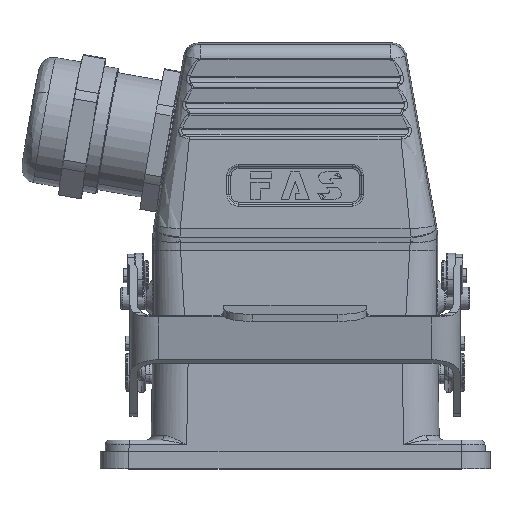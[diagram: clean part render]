
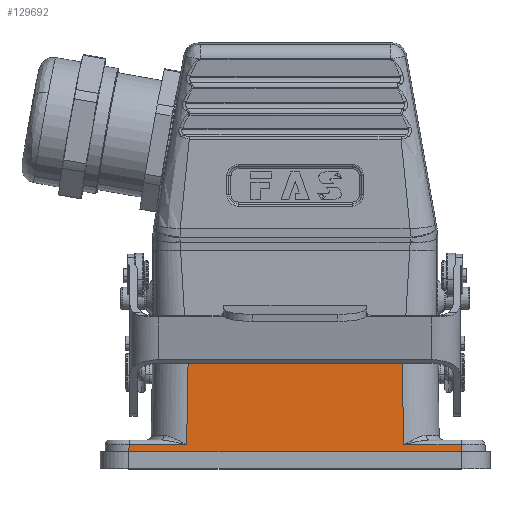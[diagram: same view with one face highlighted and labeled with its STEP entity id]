
A CAD part, top view. The second image highlights one B-rep face of the part: STEP entity #129692.
In plain terms, the highlighted planar face has unit normal (0, 0.018, 1).
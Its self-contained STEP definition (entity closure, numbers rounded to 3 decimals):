
#315 = VECTOR ( 'NONE', #131808, 1000. ) ;
#2994 = EDGE_CURVE ( 'NONE', #54490, #91649, #11237, .T. ) ;
#3604 = LINE ( 'NONE', #110635, #315 ) ;
#4074 = LINE ( 'NONE', #40720, #75930 ) ;
#6279 = CARTESIAN_POINT ( 'NONE',  ( -42.121, 22., 21.5 ) ) ;
#9014 = CARTESIAN_POINT ( 'NONE',  ( 22.501, 22., 21.5 ) ) ;
#10588 = AXIS2_PLACEMENT_3D ( 'NONE', #6279, #138322, #114103 ) ;
#11237 = LINE ( 'NONE', #59694, #104701 ) ;
#13156 = VECTOR ( 'NONE', #86381, 1000. ) ;
#14928 = DIRECTION ( 'NONE',  ( 0.017, -1., 0.017 ) ) ;
#15418 = VERTEX_POINT ( 'NONE', #87835 ) ;
#15659 = LINE ( 'NONE', #64101, #59669 ) ;
#32235 = DIRECTION ( 'NONE',  ( -1., 0., 0. ) ) ;
#36651 = CARTESIAN_POINT ( 'NONE',  ( -22.501, 22., 21.5 ) ) ;
#37942 = ORIENTED_EDGE ( 'NONE', *, *, #58379, .F. ) ;
#40720 = CARTESIAN_POINT ( 'NONE',  ( 0., 0., 21.884 ) ) ;
#42092 = VECTOR ( 'NONE', #45681, 1000. ) ;
#43690 = PLANE ( 'NONE',  #10588 ) ;
#44139 = CARTESIAN_POINT ( 'NONE',  ( 35.001, 0., 21.884 ) ) ;
#44843 = CARTESIAN_POINT ( 'NONE',  ( 35.001, 0., 21.884 ) ) ;
#45681 = DIRECTION ( 'NONE',  ( -0.017, 1., -0.017 ) ) ;
#47393 = EDGE_CURVE ( 'NONE', #65324, #15418, #15659, .T. ) ;
#50514 = ORIENTED_EDGE ( 'NONE', *, *, #2994, .T. ) ;
#50631 = EDGE_CURVE ( 'NONE', #91649, #94289, #3604, .T. ) ;
#51704 = DIRECTION ( 'NONE',  ( 1., 0., 0. ) ) ;
#54490 = VERTEX_POINT ( 'NONE', #60016 ) ;
#58379 = EDGE_CURVE ( 'NONE', #104593, #65324, #75424, .T. ) ;
#58905 = DIRECTION ( 'NONE',  ( -1., 0., 0. ) ) ;
#59669 = VECTOR ( 'NONE', #14928, 1000. ) ;
#59694 = CARTESIAN_POINT ( 'NONE',  ( -42.121, 3.017, 21.831 ) ) ;
#60016 = CARTESIAN_POINT ( 'NONE',  ( -22.832, 3.017, 21.831 ) ) ;
#61384 = EDGE_CURVE ( 'NONE', #94289, #87317, #4074, .T. ) ;
#62904 = CARTESIAN_POINT ( 'NONE',  ( 0., 22., 21.5 ) ) ;
#64101 = CARTESIAN_POINT ( 'NONE',  ( 22.497, 22.238, 21.496 ) ) ;
#65324 = VERTEX_POINT ( 'NONE', #9014 ) ;
#65771 = DIRECTION ( 'NONE',  ( -0.017, -1., 0.017 ) ) ;
#66448 = EDGE_CURVE ( 'NONE', #87317, #90926, #107495, .T. ) ;
#68848 = LINE ( 'NONE', #36651, #92780 ) ;
#70852 = EDGE_CURVE ( 'NONE', #104593, #54490, #68848, .T. ) ;
#75424 = LINE ( 'NONE', #62904, #13156 ) ;
#75930 = VECTOR ( 'NONE', #51704, 1000. ) ;
#80396 = CARTESIAN_POINT ( 'NONE',  ( -35.001, 0., 21.884 ) ) ;
#86381 = DIRECTION ( 'NONE',  ( 1., 0., 0. ) ) ;
#87317 = VERTEX_POINT ( 'NONE', #44843 ) ;
#87835 = CARTESIAN_POINT ( 'NONE',  ( 22.832, 3.017, 21.831 ) ) ;
#90664 = FACE_OUTER_BOUND ( 'NONE', #93673, .T. ) ;
#90926 = VERTEX_POINT ( 'NONE', #141440 ) ;
#91649 = VERTEX_POINT ( 'NONE', #141855 ) ;
#92780 = VECTOR ( 'NONE', #65771, 1000. ) ;
#93673 = EDGE_LOOP ( 'NONE', ( #101575, #148028, #150340, #37942, #142738, #50514, #96612, #127599 ) ) ;
#94289 = VERTEX_POINT ( 'NONE', #80396 ) ;
#95653 = CARTESIAN_POINT ( 'NONE',  ( -22.501, 22., 21.5 ) ) ;
#96612 = ORIENTED_EDGE ( 'NONE', *, *, #50631, .T. ) ;
#101575 = ORIENTED_EDGE ( 'NONE', *, *, #66448, .T. ) ;
#104593 = VERTEX_POINT ( 'NONE', #95653 ) ;
#104701 = VECTOR ( 'NONE', #58905, 1000. ) ;
#106481 = LINE ( 'NONE', #139357, #150653 ) ;
#107495 = LINE ( 'NONE', #44139, #42092 ) ;
#110635 = CARTESIAN_POINT ( 'NONE',  ( -34.948, 3.017, 21.831 ) ) ;
#114103 = DIRECTION ( 'NONE',  ( 1., 0., 0. ) ) ;
#127599 = ORIENTED_EDGE ( 'NONE', *, *, #61384, .T. ) ;
#129692 = ADVANCED_FACE ( 'NONE', ( #90664 ), #43690, .T. ) ;
#130698 = EDGE_CURVE ( 'NONE', #90926, #15418, #106481, .T. ) ;
#131808 = DIRECTION ( 'NONE',  ( -0.017, -1., 0.017 ) ) ;
#138322 = DIRECTION ( 'NONE',  ( 0., 0.017, 1. ) ) ;
#139357 = CARTESIAN_POINT ( 'NONE',  ( -42.121, 3.017, 21.831 ) ) ;
#141440 = CARTESIAN_POINT ( 'NONE',  ( 34.948, 3.017, 21.831 ) ) ;
#141855 = CARTESIAN_POINT ( 'NONE',  ( -34.948, 3.017, 21.831 ) ) ;
#142738 = ORIENTED_EDGE ( 'NONE', *, *, #70852, .T. ) ;
#148028 = ORIENTED_EDGE ( 'NONE', *, *, #130698, .T. ) ;
#150340 = ORIENTED_EDGE ( 'NONE', *, *, #47393, .F. ) ;
#150653 = VECTOR ( 'NONE', #32235, 1000. ) ;
